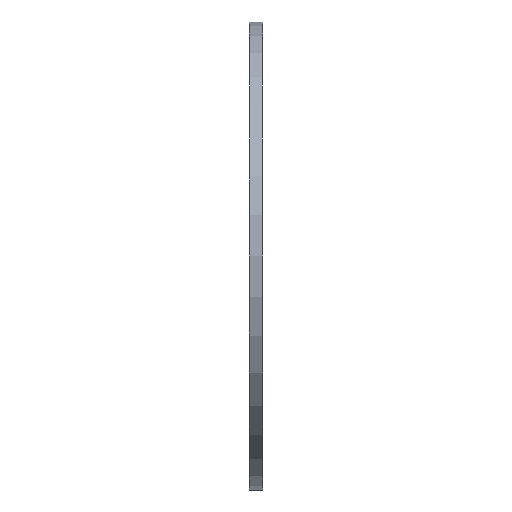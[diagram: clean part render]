
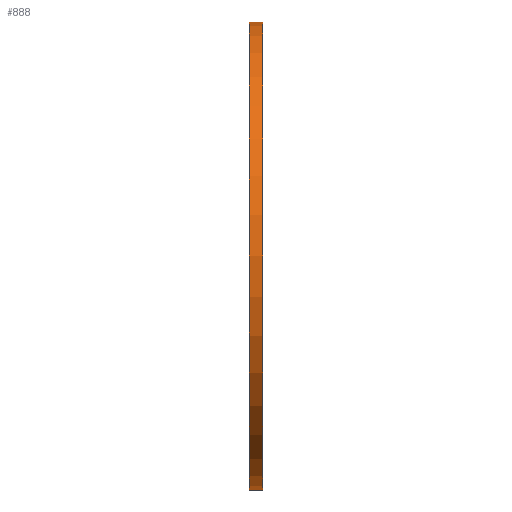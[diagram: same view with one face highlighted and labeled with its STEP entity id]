
A CAD part, left-side view. The second image highlights one B-rep face of the part: STEP entity #888.
In plain terms, the highlighted cylindrical face has radius 447.5 mm (diameter 895 mm), a partial arc.
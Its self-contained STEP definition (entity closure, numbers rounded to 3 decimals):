
#20 = VERTEX_POINT ( 'NONE', #300 ) ;
#53 = LINE ( 'NONE', #1637, #358 ) ;
#102 = EDGE_CURVE ( 'NONE', #187, #405, #1385, .T. ) ;
#106 = DIRECTION ( 'NONE',  ( 0., 1., 0. ) ) ;
#187 = VERTEX_POINT ( 'NONE', #605 ) ;
#198 = CARTESIAN_POINT ( 'NONE',  ( 0., 25., 0. ) ) ;
#201 = DIRECTION ( 'NONE',  ( 0., 1., 0. ) ) ;
#300 = CARTESIAN_POINT ( 'NONE',  ( 0., 0., 447.5 ) ) ;
#358 = VECTOR ( 'NONE', #201, 1000. ) ;
#384 = EDGE_CURVE ( 'NONE', #20, #405, #53, .T. ) ;
#405 = VERTEX_POINT ( 'NONE', #679 ) ;
#426 = ORIENTED_EDGE ( 'NONE', *, *, #1364, .T. ) ;
#466 = ORIENTED_EDGE ( 'NONE', *, *, #384, .T. ) ;
#497 = EDGE_LOOP ( 'NONE', ( #1856, #426, #466, #1985 ) ) ;
#568 = DIRECTION ( 'NONE',  ( 0., 1., 0. ) ) ;
#605 = CARTESIAN_POINT ( 'NONE',  ( 0., 25., -447.5 ) ) ;
#620 = CARTESIAN_POINT ( 'NONE',  ( 0., 38.545, -447.5 ) ) ;
#679 = CARTESIAN_POINT ( 'NONE',  ( 0., 25., 447.5 ) ) ;
#706 = DIRECTION ( 'NONE',  ( 0., 0., 1. ) ) ;
#859 = CIRCLE ( 'NONE', #1358, 447.5 ) ;
#868 = CARTESIAN_POINT ( 'NONE',  ( 0., 0., 0. ) ) ;
#870 = FACE_OUTER_BOUND ( 'NONE', #497, .T. ) ;
#888 = ADVANCED_FACE ( 'NONE', ( #870 ), #2006, .T. ) ;
#902 = LINE ( 'NONE', #620, #1974 ) ;
#972 = EDGE_CURVE ( 'NONE', #1374, #187, #902, .T. ) ;
#1298 = AXIS2_PLACEMENT_3D ( 'NONE', #1488, #568, #1514 ) ;
#1345 = CARTESIAN_POINT ( 'NONE',  ( 0., 0., -447.5 ) ) ;
#1358 = AXIS2_PLACEMENT_3D ( 'NONE', #868, #1503, #706 ) ;
#1364 = EDGE_CURVE ( 'NONE', #1374, #20, #859, .T. ) ;
#1374 = VERTEX_POINT ( 'NONE', #1345 ) ;
#1385 = CIRCLE ( 'NONE', #1831, 447.5 ) ;
#1438 = DIRECTION ( 'NONE',  ( 0., 0., 1. ) ) ;
#1488 = CARTESIAN_POINT ( 'NONE',  ( 0., 38.545, 0. ) ) ;
#1503 = DIRECTION ( 'NONE',  ( 0., 1., 0. ) ) ;
#1514 = DIRECTION ( 'NONE',  ( 0., 0., 1. ) ) ;
#1637 = CARTESIAN_POINT ( 'NONE',  ( 0., 38.545, 447.5 ) ) ;
#1831 = AXIS2_PLACEMENT_3D ( 'NONE', #198, #1940, #1438 ) ;
#1856 = ORIENTED_EDGE ( 'NONE', *, *, #972, .F. ) ;
#1940 = DIRECTION ( 'NONE',  ( 0., 1., 0. ) ) ;
#1974 = VECTOR ( 'NONE', #106, 1000. ) ;
#1985 = ORIENTED_EDGE ( 'NONE', *, *, #102, .F. ) ;
#2006 = CYLINDRICAL_SURFACE ( 'NONE', #1298, 447.5 ) ;
